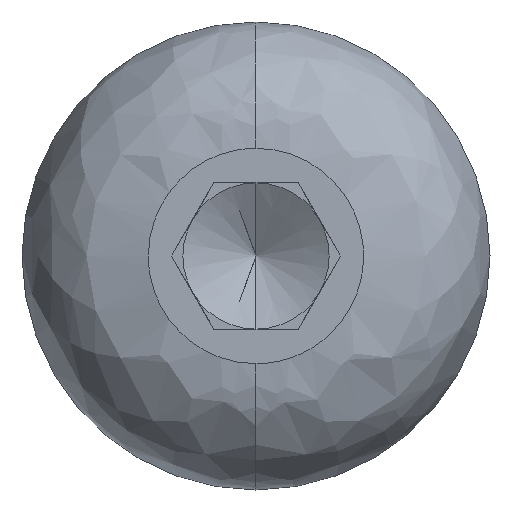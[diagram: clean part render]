
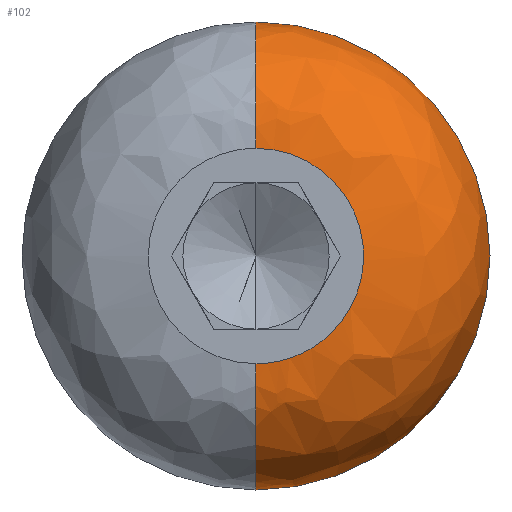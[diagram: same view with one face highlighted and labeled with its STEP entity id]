
A CAD part, left-side view. The second image highlights one B-rep face of the part: STEP entity #102.
In plain terms, the highlighted free-form (B-spline) face has degree [3, 3] with [4, 4] control points.
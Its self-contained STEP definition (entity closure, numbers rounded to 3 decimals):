
#17 = EDGE_CURVE ( 'NONE', #678, #485, #417, .T. ) ;
#60 = CARTESIAN_POINT ( 'NONE',  ( 0., -7.36, -3.68 ) ) ;
#102 = ADVANCED_FACE ( 'NONE', ( #235 ), #765, .T. ) ;
#108 =( BOUNDED_CURVE ( )  B_SPLINE_CURVE ( 3, ( #683, #642, #570, #563 ),
 .UNSPECIFIED., .F., .T. ) 
 B_SPLINE_CURVE_WITH_KNOTS ( ( 4, 4 ),
 ( 0., 1. ),
 .UNSPECIFIED. ) 
 CURVE ( )  GEOMETRIC_REPRESENTATION_ITEM ( )  RATIONAL_B_SPLINE_CURVE ( ( 1., 0.333, 0.333, 1. ) ) 
 REPRESENTATION_ITEM ( '' )  );
#122 = CARTESIAN_POINT ( 'NONE',  ( 1.789, 0., -8. ) ) ;
#170 = CARTESIAN_POINT ( 'NONE',  ( 0., 0., -3.68 ) ) ;
#171 = EDGE_CURVE ( 'NONE', #692, #439, #172, .T. ) ;
#172 = CIRCLE ( 'NONE', #465, 4.32 ) ;
#177 = CARTESIAN_POINT ( 'NONE',  ( 4.32, 0., 3.68 ) ) ;
#187 = CARTESIAN_POINT ( 'NONE',  ( 1.789, -16., 8. ) ) ;
#191 = ORIENTED_EDGE ( 'NONE', *, *, #17, .T. ) ;
#196 = EDGE_LOOP ( 'NONE', ( #706, #191, #598, #420 ) ) ;
#223 = CARTESIAN_POINT ( 'NONE',  ( 4.32, 0., 8. ) ) ;
#235 = FACE_OUTER_BOUND ( 'NONE', #196, .T. ) ;
#236 = DIRECTION ( 'NONE',  ( 0., 0., -1. ) ) ;
#242 = CARTESIAN_POINT ( 'NONE',  ( 0., 0., 6.211 ) ) ;
#247 = CARTESIAN_POINT ( 'NONE',  ( 4.32, 0., 8. ) ) ;
#255 = CARTESIAN_POINT ( 'NONE',  ( 0., -7.36, 3.68 ) ) ;
#289 = CARTESIAN_POINT ( 'NONE',  ( 4.32, -16., 8. ) ) ;
#300 = CARTESIAN_POINT ( 'NONE',  ( 0., -12.421, 6.211 ) ) ;
#307 = CARTESIAN_POINT ( 'NONE',  ( 4.32, -16., -8. ) ) ;
#313 = CARTESIAN_POINT ( 'NONE',  ( 4.32, 0., 0. ) ) ;
#362 = EDGE_CURVE ( 'NONE', #692, #678, #108, .T. ) ;
#381 = DIRECTION ( 'NONE',  ( 0., 0., 1. ) ) ;
#417 = CIRCLE ( 'NONE', #484, 4.32 ) ;
#420 = ORIENTED_EDGE ( 'NONE', *, *, #171, .F. ) ;
#421 = CARTESIAN_POINT ( 'NONE',  ( 4.32, 0., -3.68 ) ) ;
#439 = VERTEX_POINT ( 'NONE', #223 ) ;
#465 = AXIS2_PLACEMENT_3D ( 'NONE', #177, #596, #787 ) ;
#470 = CARTESIAN_POINT ( 'NONE',  ( 4.32, 0., -8. ) ) ;
#481 = DIRECTION ( 'NONE',  ( 0., -1., 0. ) ) ;
#484 = AXIS2_PLACEMENT_3D ( 'NONE', #421, #481, #236 ) ;
#485 = VERTEX_POINT ( 'NONE', #764 ) ;
#544 = CARTESIAN_POINT ( 'NONE',  ( 1.789, 0., 8. ) ) ;
#563 = CARTESIAN_POINT ( 'NONE',  ( 0., 0., -3.68 ) ) ;
#570 = CARTESIAN_POINT ( 'NONE',  ( 0., -7.36, -3.68 ) ) ;
#593 = CARTESIAN_POINT ( 'NONE',  ( 0., 0., -6.211 ) ) ;
#596 = DIRECTION ( 'NONE',  ( 0., 1., 0. ) ) ;
#598 = ORIENTED_EDGE ( 'NONE', *, *, #653, .F. ) ;
#607 = CARTESIAN_POINT ( 'NONE',  ( 0., -12.421, -6.211 ) ) ;
#618 = CARTESIAN_POINT ( 'NONE',  ( 0., 0., 3.68 ) ) ;
#642 = CARTESIAN_POINT ( 'NONE',  ( 0., -7.36, 3.68 ) ) ;
#653 = EDGE_CURVE ( 'NONE', #439, #485, #774, .T. ) ;
#675 = CARTESIAN_POINT ( 'NONE',  ( 0., 0., -3.68 ) ) ;
#678 = VERTEX_POINT ( 'NONE', #675 ) ;
#683 = CARTESIAN_POINT ( 'NONE',  ( 0., 0., 3.68 ) ) ;
#692 = VERTEX_POINT ( 'NONE', #748 ) ;
#706 = ORIENTED_EDGE ( 'NONE', *, *, #362, .T. ) ;
#730 = AXIS2_PLACEMENT_3D ( 'NONE', #313, #745, #381 ) ;
#745 = DIRECTION ( 'NONE',  ( 1., 0., 0. ) ) ;
#748 = CARTESIAN_POINT ( 'NONE',  ( 0., 0., 3.68 ) ) ;
#764 = CARTESIAN_POINT ( 'NONE',  ( 4.32, 0., -8. ) ) ;
#765 =( BOUNDED_SURFACE ( )  B_SPLINE_SURFACE ( 3, 3, ( 
 ( #170, #60, #255, #618 ),
 ( #593, #607, #300, #242 ),
 ( #122, #782, #187, #544 ),
 ( #470, #307, #289, #247 ) ),
 .UNSPECIFIED., .F., .F., .T. ) 
 B_SPLINE_SURFACE_WITH_KNOTS ( ( 4, 4 ),
 ( 4, 4 ),
 ( 0., 1. ),
 ( 0., 1. ),
 .UNSPECIFIED. ) 
 GEOMETRIC_REPRESENTATION_ITEM ( )  RATIONAL_B_SPLINE_SURFACE ( (
 ( 1., 0.333, 0.333, 1.),
 ( 0.805, 0.268, 0.268, 0.805),
 ( 0.805, 0.268, 0.268, 0.805),
 ( 1., 0.333, 0.333, 1.) ) ) 
 REPRESENTATION_ITEM ( '' )  SURFACE ( )  );
#774 = CIRCLE ( 'NONE', #730, 8. ) ;
#782 = CARTESIAN_POINT ( 'NONE',  ( 1.789, -16., -8. ) ) ;
#787 = DIRECTION ( 'NONE',  ( 0., 0., 1. ) ) ;
